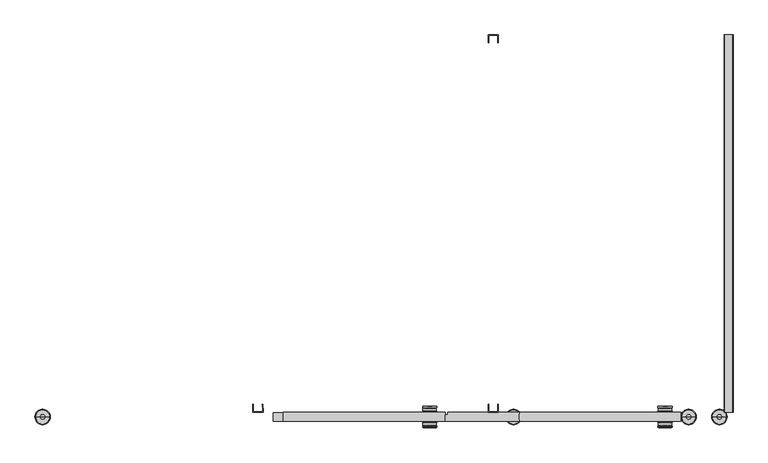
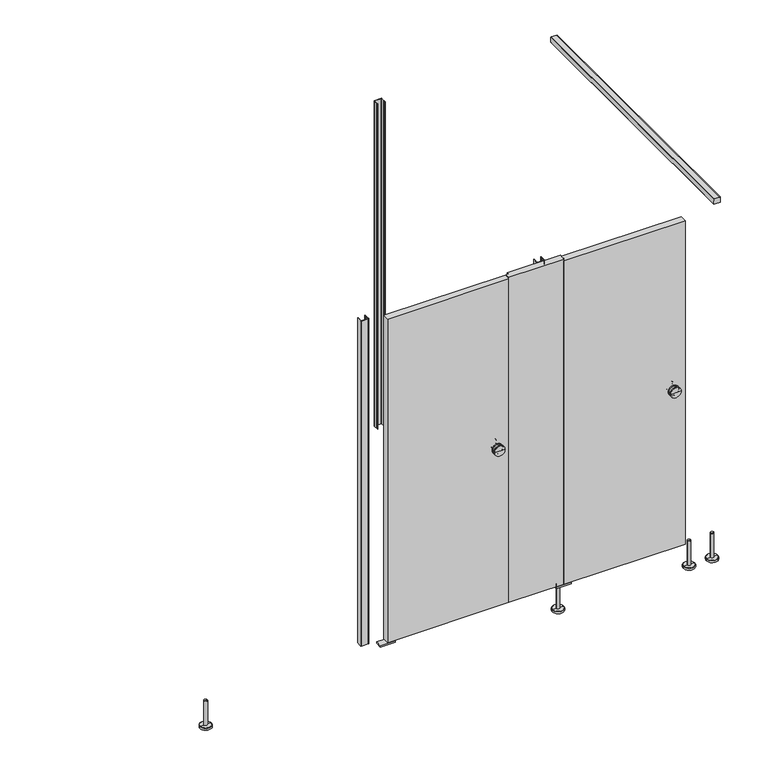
"""IFC4 building model written with IfcOpenShell, lengths in millimetres: proxy geometry, Partition_EuroStyle-Bradley_Corp-ADA_Alcove_4StandardStall-LOFT : Partition_EuroStyle-Bradley_Corp-ADA_Alcove_4StandardStall-LOFT."""

from ifc_helpers import new_model, si_unit, point, frame, frame_2d, origin, place, context, project, spatial, polyline, circle_curve, ellipse_curve, trimmed, segment, composite_curve, outline, extrude, source, transform, mapped, element, save
from ifc_brep_helpers import plane_surface, cylinder_surface, revolved_surface, advanced_brep


def specialty_equipment_0ea71b72(model_context):
    return source(origin(), model_context, "Body", "SolidModel", [
        advanced_brep(
        [(2589.8203255, -1541.9996549, 150.0000008), (2607.8203248, -1541.9996549, 150.0000008), (2607.8203248, -1541.9996549, 12.0000001), (2589.8203255, -1541.9996549, 12.0000001), (2598.8203251, -1541.9996549, 150.0000008), (2567.8203262, -1541.9996549, 0.0), (2629.8203241, -1541.9996549, 0.0), (2598.8203251, -1541.9996549, 0.0), (2567.8203262, -1541.9996549, 10.0000001), (2629.8203241, -1541.9996549, 10.0000001), (2569.8227381, -1541.9996549, 12.0000001), (2627.8179122, -1541.9996549, 12.0000001)],
        [
            (0, 1, circle_curve(frame((2598.8203251, -1541.9996549, 150.0000008), z_axis=(0.0, 0.0, -1.0), x_axis=(1.0, 0.0, 0.0)), 8.9999997)),
            (1, 2),
            (2, 3, circle_curve(frame((2598.8203251, -1541.9996549, 12.0000001), z_axis=(0.0, 0.0, 1.0), x_axis=(1.0, 0.0, 0.0)), 8.9999997)),
            (3, 0),
            (1, 0, circle_curve(frame((2598.8203251, -1541.9996549, 150.0000008), z_axis=(0.0, 0.0, -1.0), x_axis=(1.0, 0.0, 0.0)), 8.9999997)),
            (3, 2, circle_curve(frame((2598.8203251, -1541.9996549, 12.0000001), z_axis=(0.0, 0.0, 1.0), x_axis=(1.0, 0.0, 0.0)), 8.9999997)),
            (4, 1),
            (0, 4),
            (5, 6, circle_curve(frame((2598.8203251, -1541.9996549, 0.0), z_axis=(0.0, 0.0, -1.0), x_axis=(1.0, 0.0, 0.0)), 30.9999989)),
            (6, 7),
            (7, 5),
            (6, 5, circle_curve(frame((2598.8203251, -1541.9996549, 0.0), z_axis=(0.0, 0.0, -1.0), x_axis=(1.0, 0.0, 0.0)), 30.9999989)),
            (8, 9, circle_curve(frame((2598.8203251, -1541.9996549, 10.0000001), z_axis=(0.0, 0.0, -1.0), x_axis=(1.0, 0.0, 0.0)), 30.9999989)),
            (9, 6),
            (5, 8),
            (9, 8, circle_curve(frame((2598.8203251, -1541.9996549, 10.0000001), z_axis=(0.0, 0.0, -1.0), x_axis=(1.0, 0.0, 0.0)), 30.9999989)),
            (10, 11, circle_curve(frame((2598.8203251, -1541.9996549, 12.0000001), z_axis=(0.0, 0.0, -1.0), x_axis=(1.0, 0.0, 0.0)), 28.997587)),
            (11, 9),
            (8, 10),
            (11, 10, circle_curve(frame((2598.8203251, -1541.9996549, 12.0000001), z_axis=(0.0, 0.0, -1.0), x_axis=(1.0, 0.0, 0.0)), 28.997587)),
            (2, 11),
            (10, 3),
        ],
        [
            cylinder_surface(frame((2598.8203251, -1541.9996549, 0.0), z_axis=(0.0, 0.0, 1.0), x_axis=(1.0, 0.0, 0.0)), 8.9999997),
            plane_surface(frame((2598.8203251, -1541.9996549, 150.0000008), z_axis=(0.0, 0.0, 1.0), x_axis=(1.0, 0.0, 0.0))),
            plane_surface(frame((2598.8203251, -1541.9996549, 0.0), z_axis=(0.0, 0.0, -1.0), x_axis=(1.0, 0.0, 0.0))),
            cylinder_surface(frame((2598.8203251, -1541.9996549, 0.0), z_axis=(0.0, 0.0, 1.0), x_axis=(1.0, 0.0, 0.0)), 30.9999989),
            revolved_surface(polyline([(2629.8203241, -1541.9996549, 10.0000001), (2627.8179122, -1541.9996549, 12.0000001)]), (2598.8203251, -1541.9996549, 0.0), (0.0, 0.0, 1.0)),
            plane_surface(frame((2598.8203251, -1541.9996549, 12.0000001), z_axis=(0.0, 0.0, 1.0), x_axis=(1.0, 0.0, 0.0))),
        ],
        [
            (0, [[1, 2, 3, 4]]),
            (0, [[5, -4, 6, -2]]),
            (1, [[7, -1, 8]]),
            (1, [[-8, -5, -7]]),
            (2, [[9, 10, 11]]),
            (2, [[12, -11, -10]]),
            (3, [[13, 14, -9, 15]]),
            (3, [[16, -15, -12, -14]]),
            (4, [[17, 18, -13, 19]]),
            (4, [[20, -19, -16, -18]]),
            (5, [[-3, 21, -17, 22]]),
            (5, [[-6, -22, -20, -21]]),
        ],
    ),
        extrude(outline(composite_curve([segment(polyline([(4398.1288796, -1491.4999998), (4399.6274652, -1491.4999998)]), True, "CONTINUOUS"), segment(trimmed(circle_curve(frame_2d((4399.6238978, -1492.4990918)), 0.9990984), [point((4399.6274652, -1491.4999998))], [point((4400.0975504, -1493.3787798))], False, "CARTESIAN"), True, "CONTINUOUS"), segment(polyline([(4400.0975504, -1493.3787798), (4399.9764404, -1500.6424298)]), True, "CONTINUOUS"), segment(trimmed(circle_curve(frame_2d((4399.4588945, -1501.4999449)), 1.0015917), [point((4399.9764404, -1500.6424298))], [point((4399.9475604, -1502.3742398))], False, "CARTESIAN"), True, "CONTINUOUS"), segment(polyline([(4399.9475604, -1502.3742398), (4399.6535049, -1520.0104531)]), True, "CONTINUOUS"), segment(trimmed(circle_curve(frame_2d((4401.6536968, -1519.9997796)), 2.0002204), [point((4399.6535049, -1520.0104531))], [point((4401.6536968, -1522.0))], True, "CARTESIAN"), True, "CONTINUOUS"), segment(polyline([(4401.6536968, -1522.0), (4435.5379958, -1522.0)]), True, "CONTINUOUS"), segment(trimmed(circle_curve(frame_2d((4435.5870154, -1520.0009061)), 1.9996948), [point((4435.5379958, -1522.0))], [point((4437.58671, -1520.0))], True, "CARTESIAN"), True, "CONTINUOUS"), segment(polyline([(4437.58671, -1520.0), (4437.2926587, -1502.3739987)]), True, "CONTINUOUS"), segment(trimmed(circle_curve(frame_2d((4437.7817558, -1501.4999449)), 1.0015917), [point((4437.2926587, -1502.3739987))], [point((4437.2642099, -1500.6424298))], False, "CARTESIAN"), True, "CONTINUOUS"), segment(polyline([(4437.2642099, -1500.6424298), (4437.1430999, -1493.3787798)]), True, "CONTINUOUS"), segment(trimmed(circle_curve(frame_2d((4437.6167525, -1492.4990918)), 0.9990984), [point((4437.1430999, -1493.3787798))], [point((4437.6131851, -1491.4999998))], False, "CARTESIAN"), True, "CONTINUOUS"), segment(polyline([(4437.6131851, -1491.4999998), (4439.1117707, -1491.4999998), (4439.6201098, -1521.97082)]), True, "CONTINUOUS"), segment(trimmed(circle_curve(frame_2d((4437.5909298, -1521.97082)), 2.02918), [point((4439.6201098, -1521.97082))], [point((4437.5909298, -1524.0))], False, "CARTESIAN"), True, "CONTINUOUS"), segment(polyline([(4437.5909298, -1524.0), (4399.6497205, -1524.0)]), True, "CONTINUOUS"), segment(trimmed(circle_curve(frame_2d((4399.6497205, -1521.97082)), 2.02918), [point((4399.6497205, -1524.0))], [point((4397.6205405, -1521.97082))], False, "CARTESIAN"), True, "CONTINUOUS"), segment(polyline([(4397.6205405, -1521.97082), (4398.1288796, -1491.4999998)]), True, "CONTINUOUS")], self_intersect=False)), frame((0.0, 0.0, 150.0), z_axis=(0.0, 0.0, 1.0), x_axis=(1.0, 0.0, 0.0)), (0.0, 0.0, 1.0), 1855.0),
        advanced_brep(
        [(5083.6451766, -1524.0098174, 1050.0), (5140.7951766, -1524.0098174, 1050.0), (5112.2201766, -1524.0098174, 1050.0), (5083.6451766, -1519.2473174, 1050.0), (5140.7951766, -1519.2473174, 1050.0), (5083.6451766, -1500.1973174, 1050.0), (5140.7951766, -1500.1973174, 1050.0), (5140.7951766, -1504.9598174, 1050.0), (5083.6451766, -1504.9598174, 1050.0), (5139.2076766, -1506.5473174, 1050.0), (5085.2326766, -1506.5473174, 1050.0), (5139.2076766, -1517.6598174, 1050.0), (5085.2326766, -1517.6598174, 1050.0), (5112.2201766, -1498.6098174, 1050.0)],
        [
            (0, 1, circle_curve(frame((5112.2201766, -1524.0098174, 1050.0), z_axis=(0.0, -1.0, 0.0), x_axis=(1.0000000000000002, 0.0, 0.0)), 28.575)),
            (1, 2),
            (2, 0),
            (1, 0, circle_curve(frame((5112.2201766, -1524.0098174, 1050.0), z_axis=(0.0, -1.0, 0.0), x_axis=(1.0000000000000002, 0.0, 0.0)), 28.575)),
            (3, 4, circle_curve(frame((5112.2201766, -1519.2473174, 1050.0), z_axis=(0.0, -1.0, 0.0), x_axis=(1.0000000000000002, 0.0, 0.0)), 28.575)),
            (4, 1),
            (0, 3),
            (4, 3, circle_curve(frame((5112.2201766, -1519.2473174, 1050.0), z_axis=(0.0, -1.0, 0.0), x_axis=(1.0000000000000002, 0.0, 0.0)), 28.575)),
            (5, 6, circle_curve(frame((5112.2201766, -1500.1973174, 1050.0), z_axis=(0.0, -1.0, 0.0), x_axis=(1.0000000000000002, 0.0, 0.0)), 28.575)),
            (6, 7),
            (7, 8, circle_curve(frame((5112.2201766, -1504.9598174, 1050.0), z_axis=(0.0, 1.0, 0.0), x_axis=(1.0000000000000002, 0.0, 0.0)), 28.575)),
            (8, 5),
            (6, 5, circle_curve(frame((5112.2201766, -1500.1973174, 1050.0), z_axis=(0.0, -1.0, 0.0), x_axis=(1.0000000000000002, 0.0, 0.0)), 28.575)),
            (8, 7, circle_curve(frame((5112.2201766, -1504.9598174, 1050.0), z_axis=(0.0, 1.0, 0.0), x_axis=(1.0000000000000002, 0.0, 0.0)), 28.575)),
            (7, 9, circle_curve(frame((5140.7951766, -1506.5473174, 1050.0), z_axis=(0.0, 0.0, 1.0), x_axis=(1.0000000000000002, 0.0, 0.0)), 1.5875)),
            (9, 10, circle_curve(frame((5112.2201766, -1506.5473174, 1050.0), z_axis=(0.0, 1.0, 0.0), x_axis=(1.0000000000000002, 0.0, 0.0)), 26.9875)),
            (10, 8, circle_curve(frame((5083.6451766, -1506.5473174, 1050.0), z_axis=(0.0, 0.0, 1.0), x_axis=(-1.0000000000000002, 0.0, 0.0)), 1.5875)),
            (10, 9, circle_curve(frame((5112.2201766, -1506.5473174, 1050.0), z_axis=(0.0, 1.0, 0.0), x_axis=(1.0000000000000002, 0.0, 0.0)), 26.9875)),
            (9, 11),
            (11, 12, circle_curve(frame((5112.2201766, -1517.6598174, 1050.0), z_axis=(0.0, 1.0, 0.0), x_axis=(1.0000000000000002, 0.0, 0.0)), 26.9875)),
            (12, 10),
            (12, 11, circle_curve(frame((5112.2201766, -1517.6598174, 1050.0), z_axis=(0.0, 1.0, 0.0), x_axis=(1.0000000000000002, 0.0, 0.0)), 26.9875)),
            (11, 4, circle_curve(frame((5140.7951766, -1517.6598174, 1050.0), z_axis=(0.0, 0.0, 1.0), x_axis=(1.0000000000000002, 0.0, 0.0)), 1.5875)),
            (3, 12, circle_curve(frame((5083.6451766, -1517.6598174, 1050.0), z_axis=(0.0, 0.0, 1.0), x_axis=(-1.0000000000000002, 0.0, 0.0)), 1.5875)),
            (13, 6, circle_curve(frame((5115.9143, -1690.0843466, 1050.0), z_axis=(0.0, 0.0, -1.0), x_axis=(1.0000000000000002, 0.0, 0.0)), 191.5101613)),
            (5, 13, circle_curve(frame((5108.5260533, -1690.0843466, 1050.0), z_axis=(0.0, 0.0, -1.0), x_axis=(-1.0000000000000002, 0.0, 0.0)), 191.5101613)),
        ],
        [
            plane_surface(frame((5112.2201766, -1524.0098174, 1050.0), z_axis=(0.0, -1.0, 0.0), x_axis=(1.0, 0.0, 0.0))),
            cylinder_surface(frame((5112.2201766, -1524.0098174, 1050.0), z_axis=(0.0, 1.0000000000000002, 0.0), x_axis=(1.0000000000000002, 0.0, 0.0)), 28.575),
            revolved_surface(trimmed(ellipse_curve(frame((5140.7951766, -1506.5473174, 1050.0), z_axis=(0.0, 0.0, -1.0), x_axis=(1.0000000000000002, 0.0, 0.0)), 1.5875, 1.5875), [point((5139.2076766, -1506.5473174, 1050.0))], [point((5140.7951766, -1504.9598174, 1050.0))], True, "CARTESIAN"), (5112.2201766, -1524.0098174, 1050.0), (0.0, 1.0000000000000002, 0.0)),
            cylinder_surface(frame((5112.2201766, -1524.0098174, 1050.0), z_axis=(0.0, 1.0000000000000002, 0.0), x_axis=(1.0000000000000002, 0.0, 0.0)), 26.9875),
            revolved_surface(trimmed(ellipse_curve(frame((5140.7951766, -1517.6598174, 1050.0), z_axis=(0.0, 0.0, -1.0), x_axis=(1.0000000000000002, 0.0, 0.0)), 1.5875, 1.5875), [point((5140.7951766, -1519.2473174, 1050.0))], [point((5139.2076766, -1517.6598174, 1050.0))], True, "CARTESIAN"), (5112.2201766, -1524.0098174, 1050.0), (0.0, 1.0000000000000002, 0.0)),
            revolved_surface(trimmed(ellipse_curve(frame((5115.9143, -1690.0843466, 1050.0), z_axis=(0.0, 0.0, 1.0), x_axis=(1.0000000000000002, 0.0, 0.0)), 191.5101613, 191.5101613), [point((5140.7951766, -1500.1973174, 1050.0))], [point((5112.2201766, -1498.6098174, 1050.0))], True, "CARTESIAN"), (5112.2201766, -1524.0098174, 1050.0), (0.0, 1.0000000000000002, 0.0)),
        ],
        [
            (0, [[1, 2, 3]]),
            (0, [[4, -3, -2]]),
            (1, [[5, 6, -1, 7]]),
            (1, [[8, -7, -4, -6]]),
            (1, [[9, 10, 11, 12]]),
            (1, [[13, -12, 14, -10]]),
            (2, [[-11, 15, 16, 17]]),
            (2, [[-14, -17, 18, -15]]),
            (3, [[-16, 19, 20, 21]]),
            (3, [[-18, -21, 22, -19]]),
            (4, [[-20, 23, -5, 24]]),
            (4, [[-22, -24, -8, -23]]),
            (5, [[25, -9, 26]]),
            (5, [[-26, -13, -25]]),
        ],
    ),
        advanced_brep(
        [(5112.2201766, -1560.0098174, 1050.0), (5140.7951766, -1560.0098174, 1050.0), (5083.6451766, -1560.0098174, 1050.0), (5140.7951766, -1564.7723174, 1050.0), (5083.6451766, -1564.7723174, 1050.0), (5083.6451766, -1579.0598174, 1050.0), (5140.7951766, -1579.0598174, 1050.0), (5140.7951766, -1583.8223174, 1050.0), (5083.6451766, -1583.8223174, 1050.0), (5085.2326766, -1577.4723174, 1050.0), (5139.2076766, -1577.4723174, 1050.0), (5085.2326766, -1566.3598174, 1050.0), (5139.2076766, -1566.3598174, 1050.0), (5112.2201766, -1585.4098174, 1050.0)],
        [
            (0, 1),
            (1, 2, circle_curve(frame((5112.2201766, -1560.0098174, 1050.0), z_axis=(0.0, 1.0, 0.0), x_axis=(1.0000000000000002, 0.0, 0.0)), 28.575)),
            (2, 0),
            (2, 1, circle_curve(frame((5112.2201766, -1560.0098174, 1050.0), z_axis=(0.0, 1.0, 0.0), x_axis=(1.0000000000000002, 0.0, 0.0)), 28.575)),
            (1, 3),
            (3, 4, circle_curve(frame((5112.2201766, -1564.7723174, 1050.0), z_axis=(0.0, 1.0, 0.0), x_axis=(1.0000000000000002, 0.0, 0.0)), 28.575)),
            (4, 2),
            (4, 3, circle_curve(frame((5112.2201766, -1564.7723174, 1050.0), z_axis=(0.0, 1.0, 0.0), x_axis=(1.0000000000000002, 0.0, 0.0)), 28.575)),
            (5, 6, circle_curve(frame((5112.2201766, -1579.0598174, 1050.0), z_axis=(0.0, -1.0, 0.0), x_axis=(1.0000000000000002, 0.0, 0.0)), 28.575)),
            (6, 7),
            (7, 8, circle_curve(frame((5112.2201766, -1583.8223174, 1050.0), z_axis=(0.0, 1.0, 0.0), x_axis=(1.0000000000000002, 0.0, 0.0)), 28.575)),
            (8, 5),
            (6, 5, circle_curve(frame((5112.2201766, -1579.0598174, 1050.0), z_axis=(0.0, -1.0, 0.0), x_axis=(1.0000000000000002, 0.0, 0.0)), 28.575)),
            (8, 7, circle_curve(frame((5112.2201766, -1583.8223174, 1050.0), z_axis=(0.0, 1.0, 0.0), x_axis=(1.0000000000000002, 0.0, 0.0)), 28.575)),
            (9, 10, circle_curve(frame((5112.2201766, -1577.4723174, 1050.0), z_axis=(0.0, -1.0, 0.0), x_axis=(1.0000000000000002, 0.0, 0.0)), 26.9875)),
            (10, 6, circle_curve(frame((5140.7951766, -1577.4723174, 1050.0), z_axis=(0.0, 0.0, 1.0), x_axis=(1.0000000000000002, 0.0, 0.0)), 1.5875)),
            (5, 9, circle_curve(frame((5083.6451766, -1577.4723174, 1050.0), z_axis=(0.0, 0.0, 1.0), x_axis=(-1.0000000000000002, 0.0, 0.0)), 1.5875)),
            (10, 9, circle_curve(frame((5112.2201766, -1577.4723174, 1050.0), z_axis=(0.0, -1.0, 0.0), x_axis=(1.0000000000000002, 0.0, 0.0)), 26.9875)),
            (11, 12, circle_curve(frame((5112.2201766, -1566.3598174, 1050.0), z_axis=(0.0, -1.0, 0.0), x_axis=(1.0000000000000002, 0.0, 0.0)), 26.9875)),
            (12, 10),
            (9, 11),
            (12, 11, circle_curve(frame((5112.2201766, -1566.3598174, 1050.0), z_axis=(0.0, -1.0, 0.0), x_axis=(1.0000000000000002, 0.0, 0.0)), 26.9875)),
            (3, 12, circle_curve(frame((5140.7951766, -1566.3598174, 1050.0), z_axis=(0.0, 0.0, 1.0), x_axis=(1.0000000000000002, 0.0, 0.0)), 1.5875)),
            (11, 4, circle_curve(frame((5083.6451766, -1566.3598174, 1050.0), z_axis=(0.0, 0.0, 1.0), x_axis=(-1.0000000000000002, 0.0, 0.0)), 1.5875)),
            (7, 13, circle_curve(frame((5115.9143, -1393.9352882, 1050.0), z_axis=(0.0, 0.0, -1.0), x_axis=(1.0000000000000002, 0.0, 0.0)), 191.5101613)),
            (13, 8, circle_curve(frame((5108.5260533, -1393.9352882, 1050.0), z_axis=(0.0, 0.0, -1.0), x_axis=(-1.0000000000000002, 0.0, 0.0)), 191.5101613)),
        ],
        [
            plane_surface(frame((5112.2201766, -1560.0098174, 1050.0), z_axis=(0.0, 1.0, 0.0), x_axis=(1.0, 0.0, 0.0))),
            cylinder_surface(frame((5112.2201766, -1560.0098174, 1050.0), z_axis=(0.0, 1.0000000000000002, 0.0), x_axis=(1.0000000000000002, 0.0, 0.0)), 28.575),
            revolved_surface(trimmed(ellipse_curve(frame((5140.7951766, -1577.4723174, 1050.0), z_axis=(0.0, 0.0, -1.0), x_axis=(1.0000000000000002, 0.0, 0.0)), 1.5875, 1.5875), [point((5140.7951766, -1579.0598174, 1050.0))], [point((5139.2076766, -1577.4723174, 1050.0))], True, "CARTESIAN"), (5112.2201766, -1560.0098174, 1050.0), (0.0, 1.0000000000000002, 0.0)),
            cylinder_surface(frame((5112.2201766, -1560.0098174, 1050.0), z_axis=(0.0, 1.0000000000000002, 0.0), x_axis=(1.0000000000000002, 0.0, 0.0)), 26.9875),
            revolved_surface(trimmed(ellipse_curve(frame((5140.7951766, -1566.3598174, 1050.0), z_axis=(0.0, 0.0, -1.0), x_axis=(1.0000000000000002, 0.0, 0.0)), 1.5875, 1.5875), [point((5139.2076766, -1566.3598174, 1050.0))], [point((5140.7951766, -1564.7723174, 1050.0))], True, "CARTESIAN"), (5112.2201766, -1560.0098174, 1050.0), (0.0, 1.0000000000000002, 0.0)),
            revolved_surface(trimmed(ellipse_curve(frame((5115.9143, -1393.9352882, 1050.0), z_axis=(0.0, 0.0, 1.0), x_axis=(1.0000000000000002, 0.0, 0.0)), 191.5101613, 191.5101613), [point((5112.2201766, -1585.4098174, 1050.0))], [point((5140.7951766, -1583.8223174, 1050.0))], True, "CARTESIAN"), (5112.2201766, -1560.0098174, 1050.0), (0.0, 1.0000000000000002, 0.0)),
        ],
        [
            (0, [[1, 2, 3]]),
            (0, [[-3, 4, -1]]),
            (1, [[-2, 5, 6, 7]]),
            (1, [[-4, -7, 8, -5]]),
            (1, [[9, 10, 11, 12]]),
            (1, [[13, -12, 14, -10]]),
            (2, [[15, 16, -9, 17]]),
            (2, [[18, -17, -13, -16]]),
            (3, [[19, 20, -15, 21]]),
            (3, [[22, -21, -18, -20]]),
            (4, [[-6, 23, -19, 24]]),
            (4, [[-8, -24, -22, -23]]),
            (5, [[-11, 25, 26]]),
            (5, [[-14, -26, -25]]),
        ],
    ),
        extrude(outline(polyline([(4520.6170903, -1523.9894923), (5175.7201766, -1523.9894923), (5175.7201766, -1560.0098174), (4520.6170903, -1560.0098174), (4520.6170903, -1523.9894923)])), frame((0.0, 0.0, 150.0), z_axis=(0.0, 0.0, 1.0), x_axis=(1.0, 0.0, 0.0)), (0.0, 0.0, 1.0), 1846.0),
        extrude(outline(polyline([(146.0000008, 4481.5184945), (138.0669895, 4481.5184945), (138.0669895, 4561.3657277), (146.0000008, 4561.2671655), (146.0000008, 4481.5184945)])), frame((0.0, -1559.4519923, 0.0), z_axis=(0.0, 1.0, 0.0), x_axis=(0.0, 0.0, 1.0)), (0.0, 0.0, 1.0), 34.925),
        advanced_brep(
        [(4509.1184936, -1541.9894923, 150.0000008), (4491.1184942, -1541.9894923, 150.0000008), (4491.1184942, -1541.9894923, 12.0000001), (4509.1184936, -1541.9894923, 12.0000001), (4500.1184939, -1541.9894923, 150.0000008), (4531.1184928, -1541.9894923, 0.0), (4469.1184949, -1541.9894923, 0.0), (4500.1184939, -1541.9894923, 0.0), (4531.1184928, -1541.9894923, 10.0000001), (4469.1184949, -1541.9894923, 10.0000001), (4529.1160809, -1541.9894923, 12.0000001), (4471.1209068, -1541.9894923, 12.0000001)],
        [
            (0, 1, circle_curve(frame((4500.1184939, -1541.9894923, 150.0000008), z_axis=(0.0, 0.0, -1.0), x_axis=(-1.0, 0.0, 0.0)), 8.9999997)),
            (1, 2),
            (2, 3, circle_curve(frame((4500.1184939, -1541.9894923, 12.0000001), z_axis=(0.0, 0.0, 1.0), x_axis=(-1.0, 0.0, 0.0)), 8.9999997)),
            (3, 0),
            (1, 0, circle_curve(frame((4500.1184939, -1541.9894923, 150.0000008), z_axis=(0.0, 0.0, -1.0), x_axis=(-1.0, 0.0, 0.0)), 8.9999997)),
            (3, 2, circle_curve(frame((4500.1184939, -1541.9894923, 12.0000001), z_axis=(0.0, 0.0, 1.0), x_axis=(-1.0, 0.0, 0.0)), 8.9999997)),
            (4, 1),
            (0, 4),
            (5, 6, circle_curve(frame((4500.1184939, -1541.9894923, 0.0), z_axis=(0.0, 0.0, -1.0), x_axis=(-1.0, 0.0, 0.0)), 30.9999989)),
            (6, 7),
            (7, 5),
            (6, 5, circle_curve(frame((4500.1184939, -1541.9894923, 0.0), z_axis=(0.0, 0.0, -1.0), x_axis=(-1.0, 0.0, 0.0)), 30.9999989)),
            (8, 9, circle_curve(frame((4500.1184939, -1541.9894923, 10.0000001), z_axis=(0.0, 0.0, -1.0), x_axis=(-1.0, 0.0, 0.0)), 30.9999989)),
            (9, 6),
            (5, 8),
            (9, 8, circle_curve(frame((4500.1184939, -1541.9894923, 10.0000001), z_axis=(0.0, 0.0, -1.0), x_axis=(-1.0, 0.0, 0.0)), 30.9999989)),
            (10, 11, circle_curve(frame((4500.1184939, -1541.9894923, 12.0000001), z_axis=(0.0, 0.0, -1.0), x_axis=(-1.0, 0.0, 0.0)), 28.997587)),
            (11, 9),
            (8, 10),
            (11, 10, circle_curve(frame((4500.1184939, -1541.9894923, 12.0000001), z_axis=(0.0, 0.0, -1.0), x_axis=(-1.0, 0.0, 0.0)), 28.997587)),
            (2, 11),
            (10, 3),
        ],
        [
            cylinder_surface(frame((4500.1184939, -1541.9894923, 0.0), z_axis=(0.0, 0.0, 1.0), x_axis=(-1.0, 0.0, 0.0)), 8.9999997),
            plane_surface(frame((4500.1184939, -1541.9894923, 150.0000008), z_axis=(0.0, 0.0, 1.0), x_axis=(-1.0, 0.0, 0.0))),
            plane_surface(frame((4500.1184939, -1541.9894923, 0.0), z_axis=(0.0, 0.0, -1.0), x_axis=(-1.0, 0.0, 0.0))),
            cylinder_surface(frame((4500.1184939, -1541.9894923, 0.0), z_axis=(0.0, 0.0, 1.0), x_axis=(-1.0, 0.0, 0.0)), 30.9999989),
            revolved_surface(polyline([(4469.1184949, -1541.9894923, 10.0000001), (4471.1209068, -1541.9894923, 12.0000001)]), (4500.1184939, -1541.9894923, 0.0), (0.0, 0.0, 1.0)),
            plane_surface(frame((4500.1184939, -1541.9894923, 12.0000001), z_axis=(0.0, 0.0, 1.0), x_axis=(-1.0, 0.0, 0.0))),
        ],
        [
            (0, [[1, 2, 3, 4]]),
            (0, [[5, -4, 6, -2]]),
            (1, [[7, -1, 8]]),
            (1, [[-8, -5, -7]]),
            (2, [[9, 10, 11]]),
            (2, [[12, -11, -10]]),
            (3, [[13, 14, -9, 15]]),
            (3, [[16, -15, -12, -14]]),
            (4, [[17, 18, -13, 19]]),
            (4, [[20, -19, -16, -18]]),
            (5, [[-3, 21, -17, 22]]),
            (5, [[-6, -22, -20, -21]]),
        ],
    ),
        extrude(outline(composite_curve([segment(polyline([(4235.7305201, -1523.9793297), (4522.1173386, -1523.9793297), (4522.1173386, -1525.9724607), (4523.2893041, -1525.9724607), (4524.217244, -1528.667394)]), True, "CONTINUOUS"), segment(trimmed(circle_curve(frame_2d((4547.5302625, -1542.1146417)), 26.9132923), [point((4524.217244, -1528.667394))], [point((4524.1373096, -1555.4223483))], True, "CARTESIAN"), True, "CONTINUOUS"), segment(polyline([(4524.1373096, -1555.4223483), (4523.19932, -1557.9994537), (4522.1173386, -1557.9994537), (4522.1173386, -1559.9996549), (4225.3201766, -1559.9996549), (4225.3201766, -1534.5891471), (4235.7305201, -1534.5891471), (4235.7305201, -1523.9793297)]), True, "CONTINUOUS")], self_intersect=False)), frame((0.0, 0.0, 150.0), z_axis=(0.0, 0.0, 1.0), x_axis=(1.0, 0.0, 0.0)), (0.0, 0.0, 1.0), 1855.0),
        extrude(outline(composite_curve([segment(polyline([(2032.9666591, 5351.0203701), (2005.7492965, 5351.4741806)]), True, "CONTINUOUS"), segment(trimmed(circle_curve(frame_2d((2005.762, 5352.2360747)), 0.762), [point((2005.7492965, 5351.4741806))], [point((2005.0, 5352.2360747))], False, "CARTESIAN"), True, "CONTINUOUS"), segment(polyline([(2005.0, 5352.2360747), (2005.0, 5385.7733505)]), True, "CONTINUOUS"), segment(trimmed(circle_curve(frame_2d((2005.79375, 5385.7733505)), 0.79375), [point((2005.0, 5385.7733505))], [point((2005.7805172, 5386.5669902))], False, "CARTESIAN"), True, "CONTINUOUS"), segment(polyline([(2005.7805172, 5386.5669902), (2032.9666591, 5387.0202802)]), True, "CONTINUOUS"), segment(trimmed(circle_curve(frame_2d((2033.0000015, 5385.0205597)), 1.9999985), [point((2032.9666591, 5387.0202802))], [point((2035.0, 5385.0205597))], False, "CARTESIAN"), True, "CONTINUOUS"), segment(polyline([(2035.0, 5385.0205597), (2035.0, 5353.0200907)]), True, "CONTINUOUS"), segment(trimmed(circle_curve(frame_2d((2033.0000015, 5353.0200907)), 1.9999985), [point((2035.0, 5353.0200907))], [point((2032.9666591, 5351.0203701))], False, "CARTESIAN"), True, "CONTINUOUS")], self_intersect=False)), frame((0.0, -1524.0, 0.0), z_axis=(0.0, 1.0, 0.0), x_axis=(0.0, 0.0, 1.0)), (0.0, 0.0, 1.0), 1524.0),
        advanced_brep(
        [(5322.9703255, -1541.9996549, 150.0000008), (5340.9703248, -1541.9996549, 150.0000008), (5340.9703248, -1541.9996549, 12.0000001), (5322.9703255, -1541.9996549, 12.0000001), (5331.9703251, -1541.9996549, 150.0000008), (5300.9703262, -1541.9996549, 0.0), (5362.9703241, -1541.9996549, 0.0), (5331.9703251, -1541.9996549, 0.0), (5300.9703262, -1541.9996549, 10.0000001), (5362.9703241, -1541.9996549, 10.0000001), (5302.9727381, -1541.9996549, 12.0000001), (5360.9679122, -1541.9996549, 12.0000001)],
        [
            (0, 1, circle_curve(frame((5331.9703251, -1541.9996549, 150.0000008), z_axis=(0.0, 0.0, -1.0), x_axis=(1.0, 0.0, 0.0)), 8.9999997)),
            (1, 2),
            (2, 3, circle_curve(frame((5331.9703251, -1541.9996549, 12.0000001), z_axis=(0.0, 0.0, 1.0), x_axis=(1.0, 0.0, 0.0)), 8.9999997)),
            (3, 0),
            (1, 0, circle_curve(frame((5331.9703251, -1541.9996549, 150.0000008), z_axis=(0.0, 0.0, -1.0), x_axis=(1.0, 0.0, 0.0)), 8.9999997)),
            (3, 2, circle_curve(frame((5331.9703251, -1541.9996549, 12.0000001), z_axis=(0.0, 0.0, 1.0), x_axis=(1.0, 0.0, 0.0)), 8.9999997)),
            (4, 1),
            (0, 4),
            (5, 6, circle_curve(frame((5331.9703251, -1541.9996549, 0.0), z_axis=(0.0, 0.0, -1.0), x_axis=(1.0, 0.0, 0.0)), 30.9999989)),
            (6, 7),
            (7, 5),
            (6, 5, circle_curve(frame((5331.9703251, -1541.9996549, 0.0), z_axis=(0.0, 0.0, -1.0), x_axis=(1.0, 0.0, 0.0)), 30.9999989)),
            (8, 9, circle_curve(frame((5331.9703251, -1541.9996549, 10.0000001), z_axis=(0.0, 0.0, -1.0), x_axis=(1.0, 0.0, 0.0)), 30.9999989)),
            (9, 6),
            (5, 8),
            (9, 8, circle_curve(frame((5331.9703251, -1541.9996549, 10.0000001), z_axis=(0.0, 0.0, -1.0), x_axis=(1.0, 0.0, 0.0)), 30.9999989)),
            (10, 11, circle_curve(frame((5331.9703251, -1541.9996549, 12.0000001), z_axis=(0.0, 0.0, -1.0), x_axis=(1.0, 0.0, 0.0)), 28.997587)),
            (11, 9),
            (8, 10),
            (11, 10, circle_curve(frame((5331.9703251, -1541.9996549, 12.0000001), z_axis=(0.0, 0.0, -1.0), x_axis=(1.0, 0.0, 0.0)), 28.997587)),
            (2, 11),
            (10, 3),
        ],
        [
            cylinder_surface(frame((5331.9703251, -1541.9996549, 0.0), z_axis=(0.0, 0.0, 1.0), x_axis=(1.0, 0.0, 0.0)), 8.9999997),
            plane_surface(frame((5331.9703251, -1541.9996549, 150.0000008), z_axis=(0.0, 0.0, 1.0), x_axis=(1.0, 0.0, 0.0))),
            plane_surface(frame((5331.9703251, -1541.9996549, 0.0), z_axis=(0.0, 0.0, -1.0), x_axis=(1.0, 0.0, 0.0))),
            cylinder_surface(frame((5331.9703251, -1541.9996549, 0.0), z_axis=(0.0, 0.0, 1.0), x_axis=(1.0, 0.0, 0.0)), 30.9999989),
            revolved_surface(polyline([(5362.9703241, -1541.9996549, 10.0000001), (5360.9679122, -1541.9996549, 12.0000001)]), (5331.9703251, -1541.9996549, 0.0), (0.0, 0.0, 1.0)),
            plane_surface(frame((5331.9703251, -1541.9996549, 12.0000001), z_axis=(0.0, 0.0, 1.0), x_axis=(1.0, 0.0, 0.0))),
        ],
        [
            (0, [[1, 2, 3, 4]]),
            (0, [[5, -4, 6, -2]]),
            (1, [[7, -1, 8]]),
            (1, [[-8, -5, -7]]),
            (2, [[9, 10, 11]]),
            (2, [[12, -11, -10]]),
            (3, [[13, 14, -9, 15]]),
            (3, [[16, -15, -12, -14]]),
            (4, [[17, 18, -13, 19]]),
            (4, [[20, -19, -16, -18]]),
            (5, [[-3, 21, -17, 22]]),
            (5, [[-6, -22, -20, -21]]),
        ],
    ),
        advanced_brep(
        [(5198.6453255, -1541.9996549, 150.0000008), (5216.6453248, -1541.9996549, 150.0000008), (5216.6453248, -1541.9996549, 12.0000001), (5198.6453255, -1541.9996549, 12.0000001), (5207.6453251, -1541.9996549, 150.0000008), (5176.6453262, -1541.9996549, 0.0), (5238.6453241, -1541.9996549, 0.0), (5207.6453251, -1541.9996549, 0.0), (5176.6453262, -1541.9996549, 10.0000001), (5238.6453241, -1541.9996549, 10.0000001), (5178.6477381, -1541.9996549, 12.0000001), (5236.6429122, -1541.9996549, 12.0000001)],
        [
            (0, 1, circle_curve(frame((5207.6453251, -1541.9996549, 150.0000008), z_axis=(0.0, 0.0, -1.0), x_axis=(1.0, 0.0, 0.0)), 8.9999997)),
            (1, 2),
            (2, 3, circle_curve(frame((5207.6453251, -1541.9996549, 12.0000001), z_axis=(0.0, 0.0, 1.0), x_axis=(1.0, 0.0, 0.0)), 8.9999997)),
            (3, 0),
            (1, 0, circle_curve(frame((5207.6453251, -1541.9996549, 150.0000008), z_axis=(0.0, 0.0, -1.0), x_axis=(1.0, 0.0, 0.0)), 8.9999997)),
            (3, 2, circle_curve(frame((5207.6453251, -1541.9996549, 12.0000001), z_axis=(0.0, 0.0, 1.0), x_axis=(1.0, 0.0, 0.0)), 8.9999997)),
            (4, 1),
            (0, 4),
            (5, 6, circle_curve(frame((5207.6453251, -1541.9996549, 0.0), z_axis=(0.0, 0.0, -1.0), x_axis=(1.0, 0.0, 0.0)), 30.9999989)),
            (6, 7),
            (7, 5),
            (6, 5, circle_curve(frame((5207.6453251, -1541.9996549, 0.0), z_axis=(0.0, 0.0, -1.0), x_axis=(1.0, 0.0, 0.0)), 30.9999989)),
            (8, 9, circle_curve(frame((5207.6453251, -1541.9996549, 10.0000001), z_axis=(0.0, 0.0, -1.0), x_axis=(1.0, 0.0, 0.0)), 30.9999989)),
            (9, 6),
            (5, 8),
            (9, 8, circle_curve(frame((5207.6453251, -1541.9996549, 10.0000001), z_axis=(0.0, 0.0, -1.0), x_axis=(1.0, 0.0, 0.0)), 30.9999989)),
            (10, 11, circle_curve(frame((5207.6453251, -1541.9996549, 12.0000001), z_axis=(0.0, 0.0, -1.0), x_axis=(1.0, 0.0, 0.0)), 28.997587)),
            (11, 9),
            (8, 10),
            (11, 10, circle_curve(frame((5207.6453251, -1541.9996549, 12.0000001), z_axis=(0.0, 0.0, -1.0), x_axis=(1.0, 0.0, 0.0)), 28.997587)),
            (2, 11),
            (10, 3),
        ],
        [
            cylinder_surface(frame((5207.6453251, -1541.9996549, 0.0), z_axis=(0.0, 0.0, 1.0), x_axis=(1.0, 0.0, 0.0)), 8.9999997),
            plane_surface(frame((5207.6453251, -1541.9996549, 150.0000008), z_axis=(0.0, 0.0, 1.0), x_axis=(1.0, 0.0, 0.0))),
            plane_surface(frame((5207.6453251, -1541.9996549, 0.0), z_axis=(0.0, 0.0, -1.0), x_axis=(1.0, 0.0, 0.0))),
            cylinder_surface(frame((5207.6453251, -1541.9996549, 0.0), z_axis=(0.0, 0.0, 1.0), x_axis=(1.0, 0.0, 0.0)), 30.9999989),
            revolved_surface(polyline([(5238.6453241, -1541.9996549, 10.0000001), (5236.6429122, -1541.9996549, 12.0000001)]), (5207.6453251, -1541.9996549, 0.0), (0.0, 0.0, 1.0)),
            plane_surface(frame((5207.6453251, -1541.9996549, 12.0000001), z_axis=(0.0, 0.0, 1.0), x_axis=(1.0, 0.0, 0.0))),
        ],
        [
            (0, [[1, 2, 3, 4]]),
            (0, [[5, -4, 6, -2]]),
            (1, [[7, -1, 8]]),
            (1, [[-8, -5, -7]]),
            (2, [[9, 10, 11]]),
            (2, [[12, -11, -10]]),
            (3, [[13, 14, -9, 15]]),
            (3, [[16, -15, -12, -14]]),
            (4, [[17, 18, -13, 19]]),
            (4, [[20, -19, -16, -18]]),
            (5, [[-3, 21, -17, 22]]),
            (5, [[-6, -22, -20, -21]]),
        ],
    ),
        advanced_brep(
        [(4133.2451766, -1524.0098174, 1050.0), (4190.3951766, -1524.0098174, 1050.0), (4161.8201766, -1524.0098174, 1050.0), (4133.2451766, -1519.2473174, 1050.0), (4190.3951766, -1519.2473174, 1050.0), (4133.2451766, -1500.1973174, 1050.0), (4190.3951766, -1500.1973174, 1050.0), (4190.3951766, -1504.9598174, 1050.0), (4133.2451766, -1504.9598174, 1050.0), (4188.8076766, -1506.5473174, 1050.0), (4134.8326766, -1506.5473174, 1050.0), (4188.8076766, -1517.6598174, 1050.0), (4134.8326766, -1517.6598174, 1050.0), (4161.8201766, -1498.6098174, 1050.0)],
        [
            (0, 1, circle_curve(frame((4161.8201766, -1524.0098174, 1050.0), z_axis=(0.0, -1.0, 0.0), x_axis=(1.0000000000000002, 0.0, 0.0)), 28.575)),
            (1, 2),
            (2, 0),
            (1, 0, circle_curve(frame((4161.8201766, -1524.0098174, 1050.0), z_axis=(0.0, -1.0, 0.0), x_axis=(1.0000000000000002, 0.0, 0.0)), 28.575)),
            (3, 4, circle_curve(frame((4161.8201766, -1519.2473174, 1050.0), z_axis=(0.0, -1.0, 0.0), x_axis=(1.0000000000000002, 0.0, 0.0)), 28.575)),
            (4, 1),
            (0, 3),
            (4, 3, circle_curve(frame((4161.8201766, -1519.2473174, 1050.0), z_axis=(0.0, -1.0, 0.0), x_axis=(1.0000000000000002, 0.0, 0.0)), 28.575)),
            (5, 6, circle_curve(frame((4161.8201766, -1500.1973174, 1050.0), z_axis=(0.0, -1.0, 0.0), x_axis=(1.0000000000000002, 0.0, 0.0)), 28.575)),
            (6, 7),
            (7, 8, circle_curve(frame((4161.8201766, -1504.9598174, 1050.0), z_axis=(0.0, 1.0, 0.0), x_axis=(1.0000000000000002, 0.0, 0.0)), 28.575)),
            (8, 5),
            (6, 5, circle_curve(frame((4161.8201766, -1500.1973174, 1050.0), z_axis=(0.0, -1.0, 0.0), x_axis=(1.0000000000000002, 0.0, 0.0)), 28.575)),
            (8, 7, circle_curve(frame((4161.8201766, -1504.9598174, 1050.0), z_axis=(0.0, 1.0, 0.0), x_axis=(1.0000000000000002, 0.0, 0.0)), 28.575)),
            (7, 9, circle_curve(frame((4190.3951766, -1506.5473174, 1050.0), z_axis=(0.0, 0.0, 1.0), x_axis=(1.0000000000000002, 0.0, 0.0)), 1.5875)),
            (9, 10, circle_curve(frame((4161.8201766, -1506.5473174, 1050.0), z_axis=(0.0, 1.0, 0.0), x_axis=(1.0000000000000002, 0.0, 0.0)), 26.9875)),
            (10, 8, circle_curve(frame((4133.2451766, -1506.5473174, 1050.0), z_axis=(0.0, 0.0, 1.0), x_axis=(-1.0000000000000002, 0.0, 0.0)), 1.5875)),
            (10, 9, circle_curve(frame((4161.8201766, -1506.5473174, 1050.0), z_axis=(0.0, 1.0, 0.0), x_axis=(1.0000000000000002, 0.0, 0.0)), 26.9875)),
            (9, 11),
            (11, 12, circle_curve(frame((4161.8201766, -1517.6598174, 1050.0), z_axis=(0.0, 1.0, 0.0), x_axis=(1.0000000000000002, 0.0, 0.0)), 26.9875)),
            (12, 10),
            (12, 11, circle_curve(frame((4161.8201766, -1517.6598174, 1050.0), z_axis=(0.0, 1.0, 0.0), x_axis=(1.0000000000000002, 0.0, 0.0)), 26.9875)),
            (11, 4, circle_curve(frame((4190.3951766, -1517.6598174, 1050.0), z_axis=(0.0, 0.0, 1.0), x_axis=(1.0000000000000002, 0.0, 0.0)), 1.5875)),
            (3, 12, circle_curve(frame((4133.2451766, -1517.6598174, 1050.0), z_axis=(0.0, 0.0, 1.0), x_axis=(-1.0000000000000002, 0.0, 0.0)), 1.5875)),
            (13, 6, circle_curve(frame((4165.5143, -1690.0843466, 1050.0), z_axis=(0.0, 0.0, -1.0), x_axis=(1.0000000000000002, 0.0, 0.0)), 191.5101613)),
            (5, 13, circle_curve(frame((4158.1260533, -1690.0843466, 1050.0), z_axis=(0.0, 0.0, -1.0), x_axis=(-1.0000000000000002, 0.0, 0.0)), 191.5101613)),
        ],
        [
            plane_surface(frame((4161.8201766, -1524.0098174, 1050.0), z_axis=(0.0, -1.0, 0.0), x_axis=(1.0, 0.0, 0.0))),
            cylinder_surface(frame((4161.8201766, -1524.0098174, 1050.0), z_axis=(0.0, 1.0000000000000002, 0.0), x_axis=(1.0000000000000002, 0.0, 0.0)), 28.575),
            revolved_surface(trimmed(ellipse_curve(frame((4190.3951766, -1506.5473174, 1050.0), z_axis=(0.0, 0.0, -1.0), x_axis=(1.0000000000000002, 0.0, 0.0)), 1.5875, 1.5875), [point((4188.8076766, -1506.5473174, 1050.0))], [point((4190.3951766, -1504.9598174, 1050.0))], True, "CARTESIAN"), (4161.8201766, -1524.0098174, 1050.0), (0.0, 1.0000000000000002, 0.0)),
            cylinder_surface(frame((4161.8201766, -1524.0098174, 1050.0), z_axis=(0.0, 1.0000000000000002, 0.0), x_axis=(1.0000000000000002, 0.0, 0.0)), 26.9875),
            revolved_surface(trimmed(ellipse_curve(frame((4190.3951766, -1517.6598174, 1050.0), z_axis=(0.0, 0.0, -1.0), x_axis=(1.0000000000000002, 0.0, 0.0)), 1.5875, 1.5875), [point((4190.3951766, -1519.2473174, 1050.0))], [point((4188.8076766, -1517.6598174, 1050.0))], True, "CARTESIAN"), (4161.8201766, -1524.0098174, 1050.0), (0.0, 1.0000000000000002, 0.0)),
            revolved_surface(trimmed(ellipse_curve(frame((4165.5143, -1690.0843466, 1050.0), z_axis=(0.0, 0.0, 1.0), x_axis=(1.0000000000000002, 0.0, 0.0)), 191.5101613, 191.5101613), [point((4190.3951766, -1500.1973174, 1050.0))], [point((4161.8201766, -1498.6098174, 1050.0))], True, "CARTESIAN"), (4161.8201766, -1524.0098174, 1050.0), (0.0, 1.0000000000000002, 0.0)),
        ],
        [
            (0, [[1, 2, 3]]),
            (0, [[4, -3, -2]]),
            (1, [[5, 6, -1, 7]]),
            (1, [[8, -7, -4, -6]]),
            (1, [[9, 10, 11, 12]]),
            (1, [[13, -12, 14, -10]]),
            (2, [[-11, 15, 16, 17]]),
            (2, [[-14, -17, 18, -15]]),
            (3, [[-16, 19, 20, 21]]),
            (3, [[-18, -21, 22, -19]]),
            (4, [[-20, 23, -5, 24]]),
            (4, [[-22, -24, -8, -23]]),
            (5, [[25, -9, 26]]),
            (5, [[-26, -13, -25]]),
        ],
    ),
        advanced_brep(
        [(4161.8201766, -1560.0098174, 1050.0), (4190.3951766, -1560.0098174, 1050.0), (4133.2451766, -1560.0098174, 1050.0), (4190.3951766, -1564.7723174, 1050.0), (4133.2451766, -1564.7723174, 1050.0), (4133.2451766, -1579.0598174, 1050.0), (4190.3951766, -1579.0598174, 1050.0), (4190.3951766, -1583.8223174, 1050.0), (4133.2451766, -1583.8223174, 1050.0), (4134.8326766, -1577.4723174, 1050.0), (4188.8076766, -1577.4723174, 1050.0), (4134.8326766, -1566.3598174, 1050.0), (4188.8076766, -1566.3598174, 1050.0), (4161.8201766, -1585.4098174, 1050.0)],
        [
            (0, 1),
            (1, 2, circle_curve(frame((4161.8201766, -1560.0098174, 1050.0), z_axis=(0.0, 1.0, 0.0), x_axis=(1.0000000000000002, 0.0, 0.0)), 28.575)),
            (2, 0),
            (2, 1, circle_curve(frame((4161.8201766, -1560.0098174, 1050.0), z_axis=(0.0, 1.0, 0.0), x_axis=(1.0000000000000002, 0.0, 0.0)), 28.575)),
            (1, 3),
            (3, 4, circle_curve(frame((4161.8201766, -1564.7723174, 1050.0), z_axis=(0.0, 1.0, 0.0), x_axis=(1.0000000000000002, 0.0, 0.0)), 28.575)),
            (4, 2),
            (4, 3, circle_curve(frame((4161.8201766, -1564.7723174, 1050.0), z_axis=(0.0, 1.0, 0.0), x_axis=(1.0000000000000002, 0.0, 0.0)), 28.575)),
            (5, 6, circle_curve(frame((4161.8201766, -1579.0598174, 1050.0), z_axis=(0.0, -1.0, 0.0), x_axis=(1.0000000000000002, 0.0, 0.0)), 28.575)),
            (6, 7),
            (7, 8, circle_curve(frame((4161.8201766, -1583.8223174, 1050.0), z_axis=(0.0, 1.0, 0.0), x_axis=(1.0000000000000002, 0.0, 0.0)), 28.575)),
            (8, 5),
            (6, 5, circle_curve(frame((4161.8201766, -1579.0598174, 1050.0), z_axis=(0.0, -1.0, 0.0), x_axis=(1.0000000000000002, 0.0, 0.0)), 28.575)),
            (8, 7, circle_curve(frame((4161.8201766, -1583.8223174, 1050.0), z_axis=(0.0, 1.0, 0.0), x_axis=(1.0000000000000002, 0.0, 0.0)), 28.575)),
            (9, 10, circle_curve(frame((4161.8201766, -1577.4723174, 1050.0), z_axis=(0.0, -1.0, 0.0), x_axis=(1.0000000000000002, 0.0, 0.0)), 26.9875)),
            (10, 6, circle_curve(frame((4190.3951766, -1577.4723174, 1050.0), z_axis=(0.0, 0.0, 1.0), x_axis=(1.0000000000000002, 0.0, 0.0)), 1.5875)),
            (5, 9, circle_curve(frame((4133.2451766, -1577.4723174, 1050.0), z_axis=(0.0, 0.0, 1.0), x_axis=(-1.0000000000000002, 0.0, 0.0)), 1.5875)),
            (10, 9, circle_curve(frame((4161.8201766, -1577.4723174, 1050.0), z_axis=(0.0, -1.0, 0.0), x_axis=(1.0000000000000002, 0.0, 0.0)), 26.9875)),
            (11, 12, circle_curve(frame((4161.8201766, -1566.3598174, 1050.0), z_axis=(0.0, -1.0, 0.0), x_axis=(1.0000000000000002, 0.0, 0.0)), 26.9875)),
            (12, 10),
            (9, 11),
            (12, 11, circle_curve(frame((4161.8201766, -1566.3598174, 1050.0), z_axis=(0.0, -1.0, 0.0), x_axis=(1.0000000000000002, 0.0, 0.0)), 26.9875)),
            (3, 12, circle_curve(frame((4190.3951766, -1566.3598174, 1050.0), z_axis=(0.0, 0.0, 1.0), x_axis=(1.0000000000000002, 0.0, 0.0)), 1.5875)),
            (11, 4, circle_curve(frame((4133.2451766, -1566.3598174, 1050.0), z_axis=(0.0, 0.0, 1.0), x_axis=(-1.0000000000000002, 0.0, 0.0)), 1.5875)),
            (7, 13, circle_curve(frame((4165.5143, -1393.9352882, 1050.0), z_axis=(0.0, 0.0, -1.0), x_axis=(1.0000000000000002, 0.0, 0.0)), 191.5101613)),
            (13, 8, circle_curve(frame((4158.1260533, -1393.9352882, 1050.0), z_axis=(0.0, 0.0, -1.0), x_axis=(-1.0000000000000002, 0.0, 0.0)), 191.5101613)),
        ],
        [
            plane_surface(frame((4161.8201766, -1560.0098174, 1050.0), z_axis=(0.0, 1.0, 0.0), x_axis=(1.0, 0.0, 0.0))),
            cylinder_surface(frame((4161.8201766, -1560.0098174, 1050.0), z_axis=(0.0, 1.0000000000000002, 0.0), x_axis=(1.0000000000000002, 0.0, 0.0)), 28.575),
            revolved_surface(trimmed(ellipse_curve(frame((4190.3951766, -1577.4723174, 1050.0), z_axis=(0.0, 0.0, -1.0), x_axis=(1.0000000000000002, 0.0, 0.0)), 1.5875, 1.5875), [point((4190.3951766, -1579.0598174, 1050.0))], [point((4188.8076766, -1577.4723174, 1050.0))], True, "CARTESIAN"), (4161.8201766, -1560.0098174, 1050.0), (0.0, 1.0000000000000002, 0.0)),
            cylinder_surface(frame((4161.8201766, -1560.0098174, 1050.0), z_axis=(0.0, 1.0000000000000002, 0.0), x_axis=(1.0000000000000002, 0.0, 0.0)), 26.9875),
            revolved_surface(trimmed(ellipse_curve(frame((4190.3951766, -1566.3598174, 1050.0), z_axis=(0.0, 0.0, -1.0), x_axis=(1.0000000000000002, 0.0, 0.0)), 1.5875, 1.5875), [point((4188.8076766, -1566.3598174, 1050.0))], [point((4190.3951766, -1564.7723174, 1050.0))], True, "CARTESIAN"), (4161.8201766, -1560.0098174, 1050.0), (0.0, 1.0000000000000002, 0.0)),
            revolved_surface(trimmed(ellipse_curve(frame((4165.5143, -1393.9352882, 1050.0), z_axis=(0.0, 0.0, 1.0), x_axis=(1.0000000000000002, 0.0, 0.0)), 191.5101613, 191.5101613), [point((4161.8201766, -1585.4098174, 1050.0))], [point((4190.3951766, -1583.8223174, 1050.0))], True, "CARTESIAN"), (4161.8201766, -1560.0098174, 1050.0), (0.0, 1.0000000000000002, 0.0)),
        ],
        [
            (0, [[1, 2, 3]]),
            (0, [[-3, 4, -1]]),
            (1, [[-2, 5, 6, 7]]),
            (1, [[-4, -7, 8, -5]]),
            (1, [[9, 10, 11, 12]]),
            (1, [[13, -12, 14, -10]]),
            (2, [[15, 16, -9, 17]]),
            (2, [[18, -17, -13, -16]]),
            (3, [[19, 20, -15, 21]]),
            (3, [[22, -21, -18, -20]]),
            (4, [[-6, 23, -19, 24]]),
            (4, [[-8, -24, -22, -23]]),
            (5, [[-11, 25, 26]]),
            (5, [[-14, -26, -25]]),
        ],
    ),
        extrude(outline(polyline([(3570.2170903, -1523.9894923), (4225.3201766, -1523.9894923), (4225.3201766, -1560.0098174), (3570.2170903, -1560.0098174), (3570.2170903, -1523.9894923)])), frame((0.0, 0.0, 150.0), z_axis=(0.0, 0.0, 1.0), x_axis=(1.0, 0.0, 0.0)), (0.0, 0.0, 1.0), 1846.0),
        extrude(outline(composite_curve([segment(polyline([(3447.7288796, -1491.4999998), (3449.2274652, -1491.4999998)]), True, "CONTINUOUS"), segment(trimmed(circle_curve(frame_2d((3449.2238978, -1492.4990918)), 0.9990984), [point((3449.2274652, -1491.4999998))], [point((3449.6975504, -1493.3787798))], False, "CARTESIAN"), True, "CONTINUOUS"), segment(polyline([(3449.6975504, -1493.3787798), (3449.5764404, -1500.6424298)]), True, "CONTINUOUS"), segment(trimmed(circle_curve(frame_2d((3449.0588945, -1501.4999449)), 1.0015917), [point((3449.5764404, -1500.6424298))], [point((3449.5475604, -1502.3742398))], False, "CARTESIAN"), True, "CONTINUOUS"), segment(polyline([(3449.5475604, -1502.3742398), (3449.2535049, -1520.0104531)]), True, "CONTINUOUS"), segment(trimmed(circle_curve(frame_2d((3451.2536968, -1519.9997796)), 2.0002204), [point((3449.2535049, -1520.0104531))], [point((3451.2536968, -1522.0))], True, "CARTESIAN"), True, "CONTINUOUS"), segment(polyline([(3451.2536968, -1522.0), (3485.1379958, -1522.0)]), True, "CONTINUOUS"), segment(trimmed(circle_curve(frame_2d((3485.1870154, -1520.0009061)), 1.9996948), [point((3485.1379958, -1522.0))], [point((3487.18671, -1520.0))], True, "CARTESIAN"), True, "CONTINUOUS"), segment(polyline([(3487.18671, -1520.0), (3486.8926587, -1502.3739987)]), True, "CONTINUOUS"), segment(trimmed(circle_curve(frame_2d((3487.3817558, -1501.4999449)), 1.0015917), [point((3486.8926587, -1502.3739987))], [point((3486.8642099, -1500.6424298))], False, "CARTESIAN"), True, "CONTINUOUS"), segment(polyline([(3486.8642099, -1500.6424298), (3486.7430999, -1493.3787798)]), True, "CONTINUOUS"), segment(trimmed(circle_curve(frame_2d((3487.2167525, -1492.4990918)), 0.9990984), [point((3486.7430999, -1493.3787798))], [point((3487.2131851, -1491.4999998))], False, "CARTESIAN"), True, "CONTINUOUS"), segment(polyline([(3487.2131851, -1491.4999998), (3488.7117707, -1491.4999998), (3489.2201098, -1521.97082)]), True, "CONTINUOUS"), segment(trimmed(circle_curve(frame_2d((3487.1909298, -1521.97082)), 2.02918), [point((3489.2201098, -1521.97082))], [point((3487.1909298, -1524.0))], False, "CARTESIAN"), True, "CONTINUOUS"), segment(polyline([(3487.1909298, -1524.0), (3449.2497205, -1524.0)]), True, "CONTINUOUS"), segment(trimmed(circle_curve(frame_2d((3449.2497205, -1521.97082)), 2.02918), [point((3449.2497205, -1524.0))], [point((3447.2205405, -1521.97082))], False, "CARTESIAN"), True, "CONTINUOUS"), segment(polyline([(3447.2205405, -1521.97082), (3447.7288796, -1491.4999998)]), True, "CONTINUOUS")], self_intersect=False)), frame((0.0, 0.0, 150.0), z_axis=(0.0, 0.0, 1.0), x_axis=(1.0, 0.0, 0.0)), (0.0, 0.0, 1.0), 1855.0),
        extrude(outline(composite_curve([segment(polyline([(4398.1288796, -32.5000002), (4397.6205405, -2.02918)]), True, "CONTINUOUS"), segment(trimmed(circle_curve(frame_2d((4399.6497205, -2.02918)), 2.02918), [point((4397.6205405, -2.02918))], [point((4399.6497205, 0.0))], False, "CARTESIAN"), True, "CONTINUOUS"), segment(polyline([(4399.6497205, 0.0), (4437.5909298, 0.0)]), True, "CONTINUOUS"), segment(trimmed(circle_curve(frame_2d((4437.5909298, -2.02918)), 2.02918), [point((4437.5909298, 0.0))], [point((4439.6201098, -2.02918))], False, "CARTESIAN"), True, "CONTINUOUS"), segment(polyline([(4439.6201098, -2.02918), (4439.1117707, -32.5000002), (4437.6131851, -32.5000002)]), True, "CONTINUOUS"), segment(trimmed(circle_curve(frame_2d((4437.6167525, -31.5009082)), 0.9990984), [point((4437.6131851, -32.5000002))], [point((4437.1430999, -30.6212202))], False, "CARTESIAN"), True, "CONTINUOUS"), segment(polyline([(4437.1430999, -30.6212202), (4437.2642099, -23.3575702)]), True, "CONTINUOUS"), segment(trimmed(circle_curve(frame_2d((4437.7817558, -22.5000551)), 1.0015917), [point((4437.2642099, -23.3575702))], [point((4437.2926587, -21.6260013))], False, "CARTESIAN"), True, "CONTINUOUS"), segment(polyline([(4437.2926587, -21.6260013), (4437.58671, -4.0)]), True, "CONTINUOUS"), segment(trimmed(circle_curve(frame_2d((4435.5870154, -3.9990939)), 1.9996948), [point((4437.58671, -4.0))], [point((4435.5379958, -2.0))], True, "CARTESIAN"), True, "CONTINUOUS"), segment(polyline([(4435.5379958, -2.0), (4401.6536968, -2.0)]), True, "CONTINUOUS"), segment(trimmed(circle_curve(frame_2d((4401.6536968, -4.0002204)), 2.0002204), [point((4401.6536968, -2.0))], [point((4399.6535049, -3.9895469))], True, "CARTESIAN"), True, "CONTINUOUS"), segment(polyline([(4399.6535049, -3.9895469), (4399.9475604, -21.6257602)]), True, "CONTINUOUS"), segment(trimmed(circle_curve(frame_2d((4399.4588945, -22.5000551)), 1.0015917), [point((4399.9475604, -21.6257602))], [point((4399.9764404, -23.3575702))], False, "CARTESIAN"), True, "CONTINUOUS"), segment(polyline([(4399.9764404, -23.3575702), (4400.0975504, -30.6212202)]), True, "CONTINUOUS"), segment(trimmed(circle_curve(frame_2d((4399.6238978, -31.5009082)), 0.9990984), [point((4400.0975504, -30.6212202))], [point((4399.6274652, -32.5000002))], False, "CARTESIAN"), True, "CONTINUOUS"), segment(polyline([(4399.6274652, -32.5000002), (4398.1288796, -32.5000002)]), True, "CONTINUOUS")], self_intersect=False)), frame((0.0, 0.0, 150.0), z_axis=(0.0, 0.0, 1.0), x_axis=(1.0, 0.0, 0.0)), (0.0, 0.0, 1.0), 1855.0),
        extrude(outline(polyline([(146.0000008, 3531.1184945), (138.0669895, 3531.1184945), (138.0669895, 3610.9657277), (146.0000008, 3610.8671655), (146.0000008, 3531.1184945)])), frame((0.0, -1559.4621549, 0.0), z_axis=(0.0, 1.0, 0.0), x_axis=(0.0, 0.0, 1.0)), (0.0, 0.0, 1.0), 34.925),
    ])


if __name__ == "__main__":
    model = new_model("IFC4")
    model_context = context("Model", 3, world=origin())
    ifc_project = project(units=[si_unit("LENGTHUNIT", "METRE", prefix="MILLI")], contexts=[model_context])
    site = spatial("IfcSite", under=ifc_project)
    building = spatial("IfcBuilding", under=site)
    placement = place(None, origin())
    specialty_equipment_shape = specialty_equipment_0ea71b72(model_context)
    element("IfcBuildingElementProxy", 1, Name="Partition_EuroStyle-Bradley_Corp-ADA_Alcove_4StandardStall-LOFT : Partition_EuroStyle-Bradley_Corp-ADA_Alcove_4StandardStall-LOFT", ObjectType="Partition_EuroStyle-Bradley_Corp-ADA_Alcove_4StandardStall-LOFT : Partition_EuroStyle-Bradley_Corp-ADA_Alcove_4StandardStall-LOFT", at=placement, inside=building, context=model_context, shape_type="MappedRepresentation", body=[
        mapped(specialty_equipment_shape, transform((0.0, 0.0, 0.0), x_axis=(1.0, 0.0, 0.0), y_axis=(0.0, 1.0, 0.0), z_axis=(0.0, 0.0, 1.0))),
    ])
    save(model, "model.ifc")
